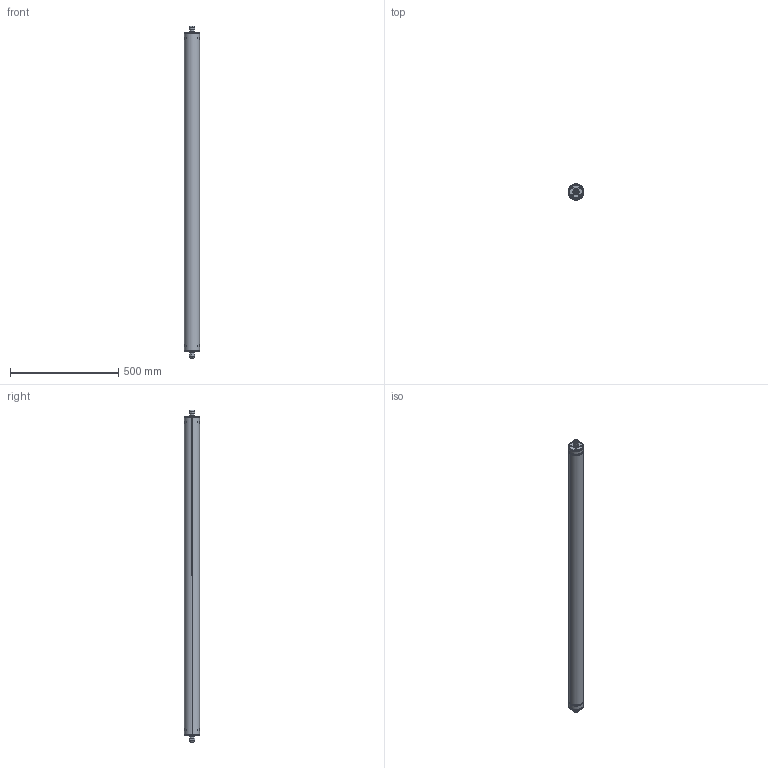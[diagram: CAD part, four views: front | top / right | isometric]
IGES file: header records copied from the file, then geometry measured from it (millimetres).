
Start section: SolidWorks IGES file using analytic representation for surfaces
Global section: file name: C:\Users\JoãoSantos\Desktop\02_3D.2D\01_2020\02_Linear\02_Tubo\02_Tubo_70\Repicagem\TUBO_70_REP_1472.IGS; native system: SolidWorks 2020; preprocessor: SolidWorks 2020; author: JoãoSantos; date: 201020.181027; units: millimetre
Bounding box: 73 x 73 x 1536 mm (x, y, z)
Surface area: 727705.1 mm2 (no closed solid volume)
Topology: 0 solids, 0 shells, 1775 faces, 16640 edges, 16420 vertices
Faces by surface type: revolution 1028, bspline 747
